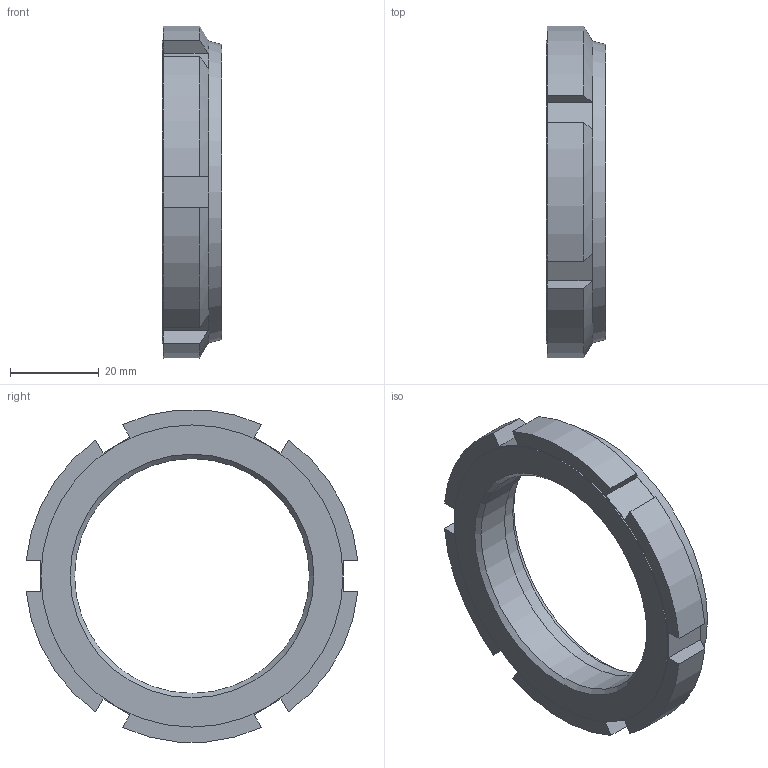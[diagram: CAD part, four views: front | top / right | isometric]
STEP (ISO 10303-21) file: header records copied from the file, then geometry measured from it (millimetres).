
FILE_DESCRIPTION( ( 'STEP AP203' ), '1' );
FILE_NAME( 'C:/Temp/Ganter_Step_05_03_2020/data/3_2/gn1804_1/Slotted locknut self-locking GN 1804.1-M55x2.stp', '2020-03-13T05:25:18', ( 'License CC BY-ND 4.0' ), ( 'CADENAS' ), ' ', 'PARTsolutions', ' ' );
FILE_SCHEMA( ( 'CONFIG_CONTROL_DESIGN' ) );
Length unit declared in the file: millimetre
Products named in the file (1): _Slotted locknut self-locking GN 1804.1-M55x2
Bounding box: 13.5 x 74.67 x 74.72 mm (x, y, z)
Volume: 23930 mm3; surface area: 9372.7 mm2
Topology: 1 solids, 1 shells, 46 faces, 113 edges, 71 vertices
Faces by surface type: plane 28, cylinder 10, cone 8
Full cylindrical faces by diameter (mm): 52.835 x1, 54.6 x1, 57 x1, 68 x1
Entity records: 1382 total; most frequent: CARTESIAN_POINT 305, ORIENTED_EDGE 210, DIRECTION 208, EDGE_CURVE 105, AXIS2_PLACEMENT_3D 80, VERTEX_POINT 69, EDGE_LOOP 56, FACE_OUTER_BOUND 50
